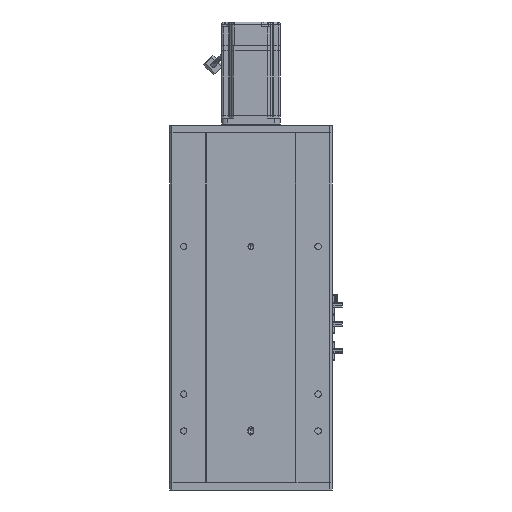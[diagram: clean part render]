
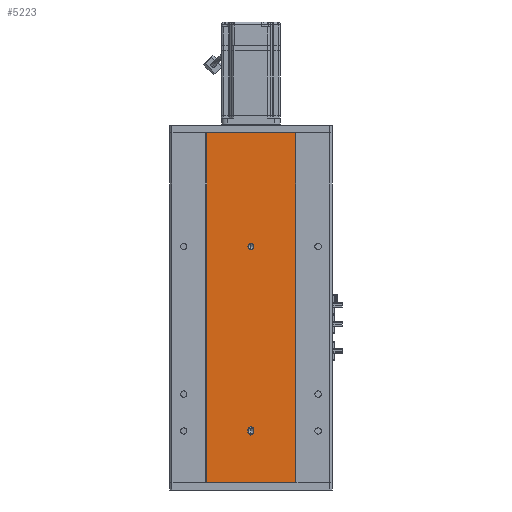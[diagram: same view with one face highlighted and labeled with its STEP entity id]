
A CAD part, front view. The second image highlights one B-rep face of the part: STEP entity #5223.
In plain terms, the highlighted planar face has unit normal (0, -1, 0).
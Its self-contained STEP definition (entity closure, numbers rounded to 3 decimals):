
#1199 = VECTOR ( 'NONE', #18728, 1000. ) ;
#1218 = CARTESIAN_POINT ( 'NONE',  ( 60., 0., 474. ) ) ;
#1946 = VECTOR ( 'NONE', #50754, 1000. ) ;
#2557 = EDGE_CURVE ( 'NONE', #8350, #62301, #24198, .T. ) ;
#4076 = AXIS2_PLACEMENT_3D ( 'NONE', #35089, #50407, #45573 ) ;
#4985 = CARTESIAN_POINT ( 'NONE',  ( 0., 0., 320. ) ) ;
#5019 = CARTESIAN_POINT ( 'NONE',  ( -60., 0., 474. ) ) ;
#5098 = FACE_OUTER_BOUND ( 'NONE', #37212, .T. ) ;
#5223 = ADVANCED_FACE ( 'NONE', ( #28552, #12926, #5098 ), #37623, .F. ) ;
#5707 = DIRECTION ( 'NONE',  ( 0., -1., 0. ) ) ;
#5957 = EDGE_CURVE ( 'NONE', #62301, #61984, #21518, .T. ) ;
#6010 = DIRECTION ( 'NONE',  ( 0., -1., 0. ) ) ;
#7157 = EDGE_LOOP ( 'NONE', ( #60903, #9393, #59521, #9949, #48755 ) ) ;
#7397 = EDGE_CURVE ( 'NONE', #48361, #61984, #40096, .T. ) ;
#7425 = DIRECTION ( 'NONE',  ( 0., 0., -1. ) ) ;
#7855 = DIRECTION ( 'NONE',  ( 0., 0., 1. ) ) ;
#8350 = VERTEX_POINT ( 'NONE', #5019 ) ;
#8998 = DIRECTION ( 'NONE',  ( 0., 0., 1. ) ) ;
#9089 = DIRECTION ( 'NONE',  ( 0., 0., -1. ) ) ;
#9393 = ORIENTED_EDGE ( 'NONE', *, *, #11648, .F. ) ;
#9949 = ORIENTED_EDGE ( 'NONE', *, *, #24777, .F. ) ;
#10712 = DIRECTION ( 'NONE',  ( 0., 0., -1. ) ) ;
#10888 = VECTOR ( 'NONE', #7855, 1000. ) ;
#11613 = VERTEX_POINT ( 'NONE', #54557 ) ;
#11648 = EDGE_CURVE ( 'NONE', #53981, #11742, #61972, .T. ) ;
#11742 = VERTEX_POINT ( 'NONE', #21482 ) ;
#12438 = DIRECTION ( 'NONE',  ( 0., -1., 0. ) ) ;
#12867 = CARTESIAN_POINT ( 'NONE',  ( 0., 0., 320. ) ) ;
#12926 = FACE_BOUND ( 'NONE', #7157, .T. ) ;
#13410 = EDGE_CURVE ( 'NONE', #11613, #53981, #34374, .T. ) ;
#15962 = ORIENTED_EDGE ( 'NONE', *, *, #7397, .F. ) ;
#16858 = CIRCLE ( 'NONE', #52594, 4. ) ;
#16902 = CARTESIAN_POINT ( 'NONE',  ( 0., 0., 68.5 ) ) ;
#17177 = CARTESIAN_POINT ( 'NONE',  ( 0., 0., 64.5 ) ) ;
#17657 = CARTESIAN_POINT ( 'NONE',  ( 4., 0., 71.5 ) ) ;
#18058 = CARTESIAN_POINT ( 'NONE',  ( -60., 0., 0. ) ) ;
#18455 = CARTESIAN_POINT ( 'NONE',  ( -4., 0., 68.5 ) ) ;
#18465 = CARTESIAN_POINT ( 'NONE',  ( 4., 0., 71.5 ) ) ;
#18555 = AXIS2_PLACEMENT_3D ( 'NONE', #12867, #12438, #7425 ) ;
#18728 = DIRECTION ( 'NONE',  ( 1., 0., 0. ) ) ;
#18953 = CARTESIAN_POINT ( 'NONE',  ( -60., 0., 0. ) ) ;
#19673 = AXIS2_PLACEMENT_3D ( 'NONE', #64936, #5707, #10712 ) ;
#20249 = DIRECTION ( 'NONE',  ( 0., 0., -1. ) ) ;
#21482 = CARTESIAN_POINT ( 'NONE',  ( -4., 0., 71.5 ) ) ;
#21518 = LINE ( 'NONE', #18953, #1199 ) ;
#23869 = DIRECTION ( 'NONE',  ( 0., 0., -1. ) ) ;
#24198 = LINE ( 'NONE', #54154, #63322 ) ;
#24777 = EDGE_CURVE ( 'NONE', #32028, #11613, #37282, .T. ) ;
#25682 = CIRCLE ( 'NONE', #37129, 4. ) ;
#26308 = DIRECTION ( 'NONE',  ( 0., 0., -1. ) ) ;
#28552 = FACE_BOUND ( 'NONE', #38265, .T. ) ;
#29659 = ORIENTED_EDGE ( 'NONE', *, *, #5957, .T. ) ;
#30945 = EDGE_CURVE ( 'NONE', #37728, #32028, #25682, .T. ) ;
#31323 = EDGE_CURVE ( 'NONE', #8350, #48361, #53624, .T. ) ;
#31406 = ORIENTED_EDGE ( 'NONE', *, *, #57958, .F. ) ;
#31993 = ORIENTED_EDGE ( 'NONE', *, *, #2557, .T. ) ;
#32028 = VERTEX_POINT ( 'NONE', #17177 ) ;
#32396 = DIRECTION ( 'NONE',  ( 0., 1., 0. ) ) ;
#34337 = CARTESIAN_POINT ( 'NONE',  ( 60., 0., 0. ) ) ;
#34374 = LINE ( 'NONE', #17657, #10888 ) ;
#34446 = VERTEX_POINT ( 'NONE', #45239 ) ;
#34961 = CIRCLE ( 'NONE', #18555, 4. ) ;
#35089 = CARTESIAN_POINT ( 'NONE',  ( 0., 0., 71.5 ) ) ;
#37129 = AXIS2_PLACEMENT_3D ( 'NONE', #16902, #6010, #26308 ) ;
#37212 = EDGE_LOOP ( 'NONE', ( #29659, #15962, #45043, #31993 ) ) ;
#37282 = CIRCLE ( 'NONE', #19673, 4. ) ;
#37399 = CARTESIAN_POINT ( 'NONE',  ( -60., 0., 474. ) ) ;
#37623 = PLANE ( 'NONE',  #44760 ) ;
#37728 = VERTEX_POINT ( 'NONE', #18455 ) ;
#38133 = CARTESIAN_POINT ( 'NONE',  ( 60., 0., 474. ) ) ;
#38265 = EDGE_LOOP ( 'NONE', ( #31406, #55075 ) ) ;
#38564 = DIRECTION ( 'NONE',  ( 0., 0., -1. ) ) ;
#38916 = LINE ( 'NONE', #48840, #41285 ) ;
#40096 = LINE ( 'NONE', #38133, #43247 ) ;
#40650 = CARTESIAN_POINT ( 'NONE',  ( -60., 0., 474. ) ) ;
#41285 = VECTOR ( 'NONE', #23869, 1000. ) ;
#42342 = EDGE_CURVE ( 'NONE', #11742, #37728, #38916, .T. ) ;
#43247 = VECTOR ( 'NONE', #38564, 1000. ) ;
#44760 = AXIS2_PLACEMENT_3D ( 'NONE', #37399, #32396, #8998 ) ;
#44997 = DIRECTION ( 'NONE',  ( 0., -1., 0. ) ) ;
#45043 = ORIENTED_EDGE ( 'NONE', *, *, #31323, .F. ) ;
#45239 = CARTESIAN_POINT ( 'NONE',  ( 0., 0., 316. ) ) ;
#45573 = DIRECTION ( 'NONE',  ( 0., 0., -1. ) ) ;
#48361 = VERTEX_POINT ( 'NONE', #1218 ) ;
#48755 = ORIENTED_EDGE ( 'NONE', *, *, #30945, .F. ) ;
#48840 = CARTESIAN_POINT ( 'NONE',  ( -4., 0., 71.5 ) ) ;
#49141 = VERTEX_POINT ( 'NONE', #57762 ) ;
#49633 = EDGE_CURVE ( 'NONE', #49141, #34446, #16858, .T. ) ;
#50407 = DIRECTION ( 'NONE',  ( 0., -1., 0. ) ) ;
#50754 = DIRECTION ( 'NONE',  ( 1., 0., 0. ) ) ;
#52594 = AXIS2_PLACEMENT_3D ( 'NONE', #4985, #44997, #20249 ) ;
#53624 = LINE ( 'NONE', #40650, #1946 ) ;
#53981 = VERTEX_POINT ( 'NONE', #18465 ) ;
#54154 = CARTESIAN_POINT ( 'NONE',  ( -60., 0., 474. ) ) ;
#54557 = CARTESIAN_POINT ( 'NONE',  ( 4., 0., 68.5 ) ) ;
#55075 = ORIENTED_EDGE ( 'NONE', *, *, #49633, .F. ) ;
#57762 = CARTESIAN_POINT ( 'NONE',  ( 0., 0., 324. ) ) ;
#57958 = EDGE_CURVE ( 'NONE', #34446, #49141, #34961, .T. ) ;
#59521 = ORIENTED_EDGE ( 'NONE', *, *, #13410, .F. ) ;
#60903 = ORIENTED_EDGE ( 'NONE', *, *, #42342, .F. ) ;
#61972 = CIRCLE ( 'NONE', #4076, 4. ) ;
#61984 = VERTEX_POINT ( 'NONE', #34337 ) ;
#62301 = VERTEX_POINT ( 'NONE', #18058 ) ;
#63322 = VECTOR ( 'NONE', #9089, 1000. ) ;
#64936 = CARTESIAN_POINT ( 'NONE',  ( 0., 0., 68.5 ) ) ;
